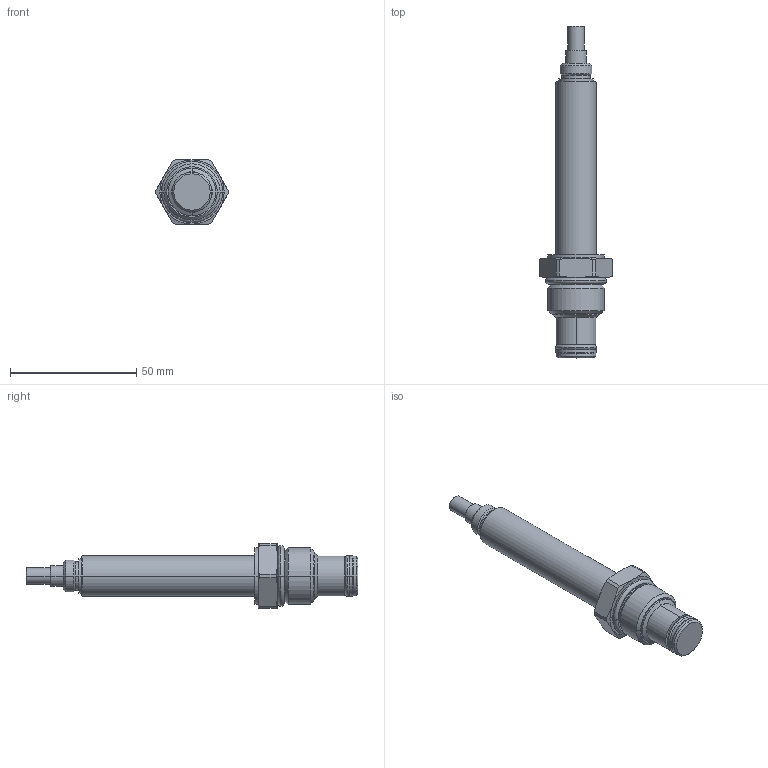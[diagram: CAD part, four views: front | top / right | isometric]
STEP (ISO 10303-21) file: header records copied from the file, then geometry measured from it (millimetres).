
FILE_DESCRIPTION((''),'2;1');
FILE_NAME('5003990_SW0001','2009-03-02T',('JCS'),(''),'PRO/ENGINEER BY PARAMETRIC TECHNOLOGY CORPORATION, 2008010','PRO/ENGINEER BY PARAMETRIC TECHNOLOGY CORPORATION, 2008010','');
FILE_SCHEMA(('CONFIG_CONTROL_DESIGN'));
Length unit declared in the file: inch
Products named in the file (1): 5003990_SW0001
Bounding box: 28.57 x 131.24 x 25.4 mm (x, y, z)
Volume: 28720.3 mm3; surface area: 8601.9 mm2
Topology: 2 solids, 2 shells, 127 faces, 274 edges, 160 vertices
Faces by surface type: cone 42, cylinder 40, plane 19, revolution 16, torus 10
Entity records: 3764 total; most frequent: CARTESIAN_POINT 927, DIRECTION 624, ORIENTED_EDGE 548, EDGE_CURVE 274, AXIS2_PLACEMENT_3D 263, VERTEX_POINT 160, CIRCLE 152, EDGE_LOOP 138
